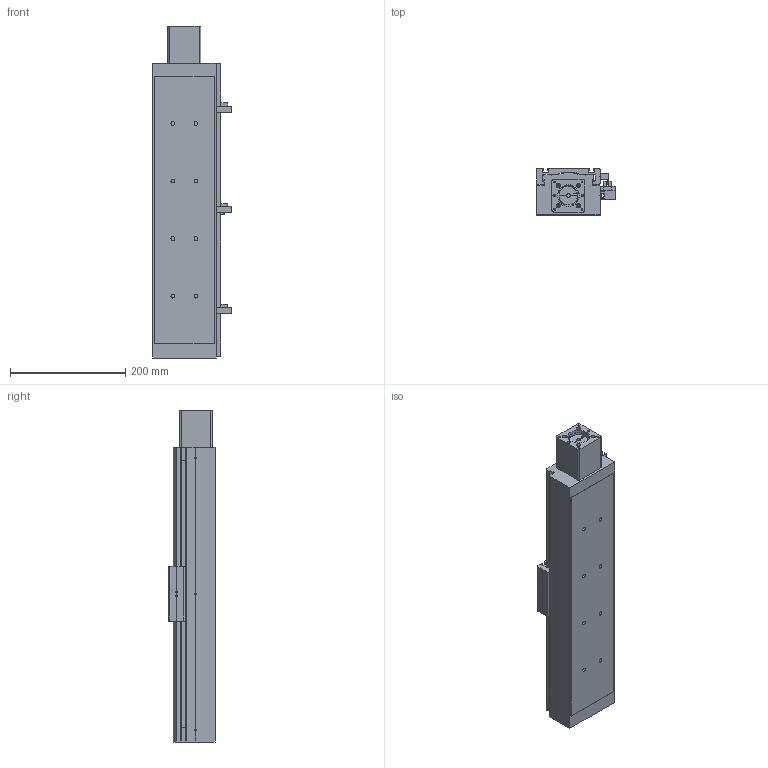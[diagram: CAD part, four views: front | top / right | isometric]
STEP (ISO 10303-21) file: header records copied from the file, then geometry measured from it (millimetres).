
FILE_DESCRIPTION((''),'2;1');
FILE_NAME('E:\libraries\UIA actuator library 2009\standard actuator\UIA110R12(15)DC\UIA110R12(15)DC-ball screw dia.16\UIA110R12(15)DC-_ _ _-R16_ _ step file 20Apr16\UIA110R12(15)DC-350-R16_ _-M23-P13-C10-S.stp','2016-04-20T16:48:00',('h029'),(''),'Autodesk Inventor 11','Autodesk Inventor 11','');
FILE_SCHEMA(('AUTOMOTIVE_DESIGN { 1 0 10303 214 1 1 1 1 }'));
Length unit declared in the file: millimetre
Products named in the file (10): UIA110R12(15)DC-350, ball screw dia.16; body, UIA110R12(15)DC-350,ball screw dia.16; Carriage, UIA110R12(15)DC; Sen Switch,UIA110R12(15)DC; sensor rail, UIA110R12(15)DC-350; SOH-32C; SOH-32C-3; SOH-32C-1; SOH-32C-2; M23 motor mount
Assembly tree (9 placements, depth 3):
  UIA110R12(15)DC-350, ball screw dia.16
    body, UIA110R12(15)DC-350,ball screw dia.16
    Carriage, UIA110R12(15)DC
    Sen Switch,UIA110R12(15)DC
    sensor rail, UIA110R12(15)DC-350
    SOH-32C
      SOH-32C-3
      SOH-32C-1
      SOH-32C-2
    M23 motor mount
Bounding box: 136.5 x 81 x 577 mm (x, y, z)
Volume: 4049107.5 mm3; surface area: 368235.6 mm2
Topology: 8 solids, 8 shells, 587 faces, 1605 edges, 1048 vertices
Faces by surface type: plane 373, cylinder 115, bspline 81, cone 18
Full cylindrical faces by diameter (mm): 2.459 x3, 3.242 x4, 4 x6, 4.5 x4, 5.5 x3, 6.35 x1, 6.5 x8, 7.5 x4, 8 x2, 9.5 x6, 10 x1, 10.5 x8, 21 x1, 32 x3, 37 x1, 38.1 x1, 42 x1, 42.01 x1, 43.5 x1
Entity records: 19124 total; most frequent: CARTESIAN_POINT 4921, DIRECTION 2837, ORIENTED_EDGE 2776, EDGE_CURVE 1388, VERTEX_POINT 975, VECTOR 951, LINE 951, AXIS2_PLACEMENT_3D 943
